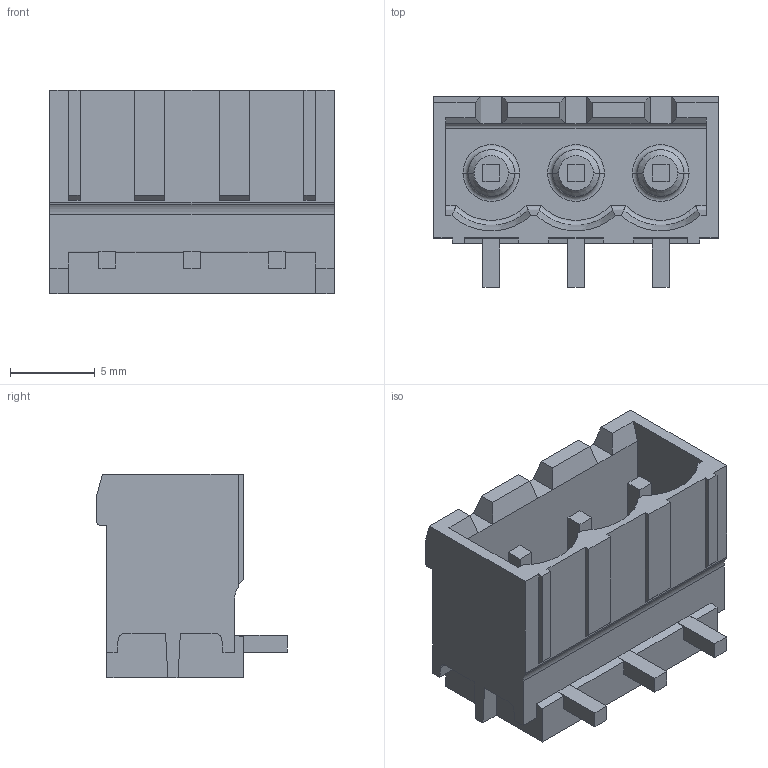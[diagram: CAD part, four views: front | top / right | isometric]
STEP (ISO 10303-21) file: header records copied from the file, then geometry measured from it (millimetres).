
FILE_DESCRIPTION((''),'2;1');
FILE_NAME('C-2342079-3','2019-07-24T03:50:24',('workeradm'),('TE Connectivity Ltd.'),'CREO PARAMETRIC BY PTC INC, 2019030','CREO PARAMETRIC BY PTC INC, 2019030','');
FILE_SCHEMA(('AUTOMOTIVE_DESIGN { 1 0 10303 214 1 1 1 1 }'));
Length unit declared in the file: millimetre
Products named in the file (1): C-2342079-3
Bounding box: 16.8 x 11.25 x 12 mm (x, y, z)
Volume: 834.2 mm3; surface area: 1389.6 mm2
Topology: 1 solids, 1 shells, 158 faces, 411 edges, 264 vertices
Faces by surface type: plane 118, cylinder 22, torus 9, cone 9
Entity records: 5195 total; most frequent: CARTESIAN_POINT 893, ORIENTED_EDGE 816, DIRECTION 779, EDGE_CURVE 408, VECTOR 337, LINE 337, VERTEX_POINT 258, AXIS2_PLACEMENT_3D 221
